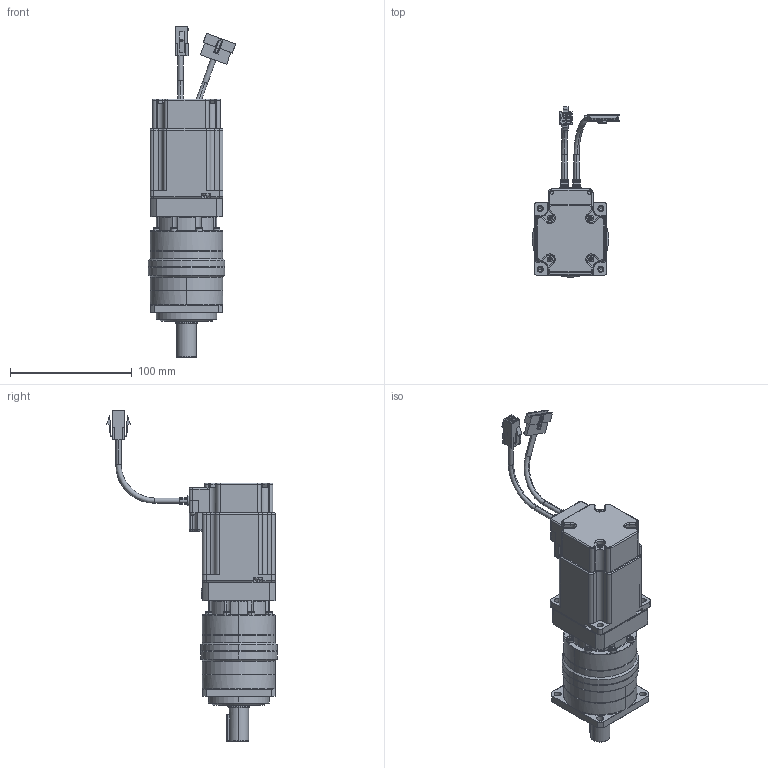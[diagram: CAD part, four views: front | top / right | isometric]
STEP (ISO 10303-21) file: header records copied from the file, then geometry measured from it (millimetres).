
FILE_DESCRIPTION (( 'STEP AP203' ), '1' );
FILE_NAME ('130416 Ezi-SERVO PG-ST-60M-PN15~50.STEP', '2013-04-16T08:32:21', ( '' ), ( '' ), 'SwSTEP 2.0', 'SolidWorks 2012', '' );
FILE_SCHEMA (( 'CONFIG_CONTROL_DESIGN' ));
Length unit declared in the file: metre
Products named in the file (15): MainPower_Cable_60-1-1; 130416 Ezi-SERVO PG-ST-60M-PN15~50; ST56 2ST; MainEzM-60M-assembly-1; MainM3-screw10-1-1; MainM3-screw7-1-1; MainM3-screw9-1-1; MainM3-screw8-1-1; MainM3-screw12-1-1; MainM3-screw11-1-1; MainEzM-60M-1; MainEZSV_60_Encoder_Cover-1-1; MainEZSV_60_Cable_Cover-1-1; Main60_Encoder_Plate-1-1; MainEncoder_Cable_60-1-1
Assembly tree (14 placements, depth 3):
  130416 Ezi-SERVO PG-ST-60M-PN15~50
    MainEzM-60M-assembly-1
      MainPower_Cable_60-1-1
      MainEncoder_Cable_60-1-1
      Main60_Encoder_Plate-1-1
      MainEZSV_60_Cable_Cover-1-1
      MainEZSV_60_Encoder_Cover-1-1
      MainEzM-60M-1
      MainM3-screw11-1-1
      MainM3-screw12-1-1
      MainM3-screw8-1-1
      MainM3-screw9-1-1
      MainM3-screw7-1-1
      MainM3-screw10-1-1
    ST56 2ST
Bounding box: 71.99 x 140.14 x 272 mm (x, y, z)
Volume: 492329.2 mm3; surface area: 94687.6 mm2
Topology: 13 solids, 13 shells, 1508 faces, 3962 edges, 2515 vertices
Faces by surface type: plane 734, cylinder 501, cone 131, bspline 62, torus 56, sphere 24
Entity records: 51808 total; most frequent: CARTESIAN_POINT 13708, ORIENTED_EDGE 7724, DIRECTION 7515, EDGE_CURVE 3862, AXIS2_PLACEMENT_3D 2749, VERTEX_POINT 2495, VECTOR 2017, LINE 2017
